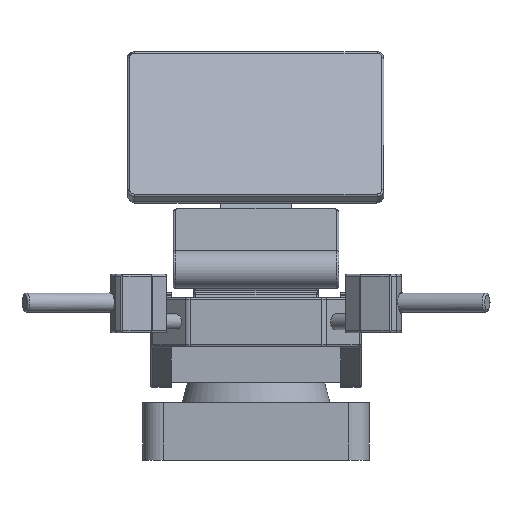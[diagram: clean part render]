
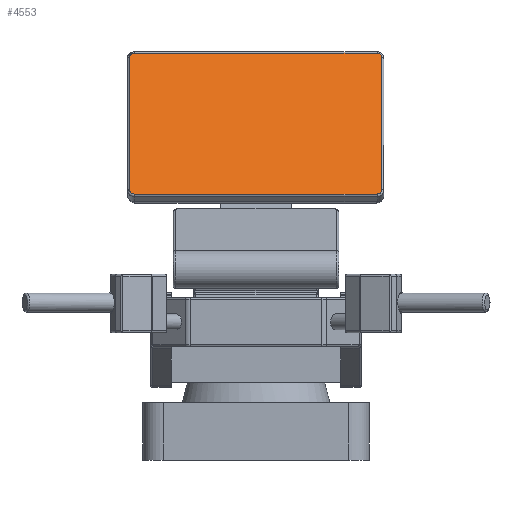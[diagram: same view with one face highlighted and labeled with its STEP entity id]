
A CAD part, front view. The second image highlights one B-rep face of the part: STEP entity #4553.
In plain terms, the highlighted planar face has unit normal (0, -0.902, 0.431) as drawn and (0, 0.902, 0.431) by its records, which use the part's own axes.
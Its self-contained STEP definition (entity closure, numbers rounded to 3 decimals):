
#411=CIRCLE('',#4946,7.);
#412=CIRCLE('',#4947,7.);
#413=CIRCLE('',#4948,7.);
#414=CIRCLE('',#4949,7.);
#853=ORIENTED_EDGE('',*,*,#2104,.T.);
#854=ORIENTED_EDGE('',*,*,#2105,.T.);
#855=ORIENTED_EDGE('',*,*,#2106,.T.);
#856=ORIENTED_EDGE('',*,*,#2107,.T.);
#857=ORIENTED_EDGE('',*,*,#2108,.T.);
#858=ORIENTED_EDGE('',*,*,#2109,.T.);
#859=ORIENTED_EDGE('',*,*,#2110,.T.);
#860=ORIENTED_EDGE('',*,*,#2111,.T.);
#2104=EDGE_CURVE('',#2741,#2742,#411,.F.);
#2105=EDGE_CURVE('',#2742,#2743,#3160,.F.);
#2106=EDGE_CURVE('',#2743,#2744,#412,.F.);
#2107=EDGE_CURVE('',#2744,#2745,#3161,.F.);
#2108=EDGE_CURVE('',#2745,#2746,#413,.F.);
#2109=EDGE_CURVE('',#2746,#2747,#3162,.F.);
#2110=EDGE_CURVE('',#2747,#2748,#414,.F.);
#2111=EDGE_CURVE('',#2748,#2741,#3163,.F.);
#2741=VERTEX_POINT('',#7581);
#2742=VERTEX_POINT('',#7582);
#2743=VERTEX_POINT('',#7584);
#2744=VERTEX_POINT('',#7586);
#2745=VERTEX_POINT('',#7588);
#2746=VERTEX_POINT('',#7590);
#2747=VERTEX_POINT('',#7592);
#2748=VERTEX_POINT('',#7594);
#3160=LINE('',#7583,#3516);
#3161=LINE('',#7587,#3517);
#3162=LINE('',#7591,#3518);
#3163=LINE('',#7595,#3519);
#3516=VECTOR('',#5763,1000.);
#3517=VECTOR('',#5766,1000.);
#3518=VECTOR('',#5769,1000.);
#3519=VECTOR('',#5772,1000.);
#3837=EDGE_LOOP('',(#853,#854,#855,#856,#857,#858,#859,#860));
#4151=FACE_BOUND('',#3837,.T.);
#4430=PLANE('',#4945);
#4553=ADVANCED_FACE('',(#4151),#4430,.F.);
#4945=AXIS2_PLACEMENT_3D('',#7579,#5759,#5760);
#4946=AXIS2_PLACEMENT_3D('',#7580,#5761,#5762);
#4947=AXIS2_PLACEMENT_3D('',#7585,#5764,#5765);
#4948=AXIS2_PLACEMENT_3D('',#7589,#5767,#5768);
#4949=AXIS2_PLACEMENT_3D('',#7593,#5770,#5771);
#5759=DIRECTION('',(0.,-0.902,-0.431));
#5760=DIRECTION('',(0.,0.431,-0.902));
#5761=DIRECTION('',(0.,-0.902,-0.431));
#5762=DIRECTION('',(0.,0.431,-0.902));
#5763=DIRECTION('',(1.,0.,0.));
#5764=DIRECTION('',(0.,-0.902,-0.431));
#5765=DIRECTION('',(0.,0.431,-0.902));
#5766=DIRECTION('',(0.,0.431,-0.902));
#5767=DIRECTION('',(0.,-0.902,-0.431));
#5768=DIRECTION('',(0.,0.431,-0.902));
#5769=DIRECTION('',(-1.,0.,0.));
#5770=DIRECTION('',(0.,-0.902,-0.431));
#5771=DIRECTION('',(0.,0.431,-0.902));
#5772=DIRECTION('',(0.,-0.431,0.902));
#7579=CARTESIAN_POINT('',(0.,159.107,76.066));
#7580=CARTESIAN_POINT('',(178.871,109.135,180.592));
#7581=CARTESIAN_POINT('',(185.871,109.135,180.592));
#7582=CARTESIAN_POINT('',(178.871,112.154,174.276));
#7583=CARTESIAN_POINT('',(-178.072,112.154,174.276));
#7584=CARTESIAN_POINT('',(-178.072,112.154,174.276));
#7585=CARTESIAN_POINT('',(-178.072,109.135,180.592));
#7586=CARTESIAN_POINT('',(-185.072,109.135,180.592));
#7587=CARTESIAN_POINT('',(-185.072,16.056,375.286));
#7588=CARTESIAN_POINT('',(-185.072,16.056,375.286));
#7589=CARTESIAN_POINT('',(-178.072,16.056,375.286));
#7590=CARTESIAN_POINT('',(-178.072,13.036,381.601));
#7591=CARTESIAN_POINT('',(178.871,13.036,381.601));
#7592=CARTESIAN_POINT('',(178.871,13.036,381.601));
#7593=CARTESIAN_POINT('',(178.871,16.056,375.286));
#7594=CARTESIAN_POINT('',(185.871,16.056,375.286));
#7595=CARTESIAN_POINT('',(185.871,109.135,180.592));
